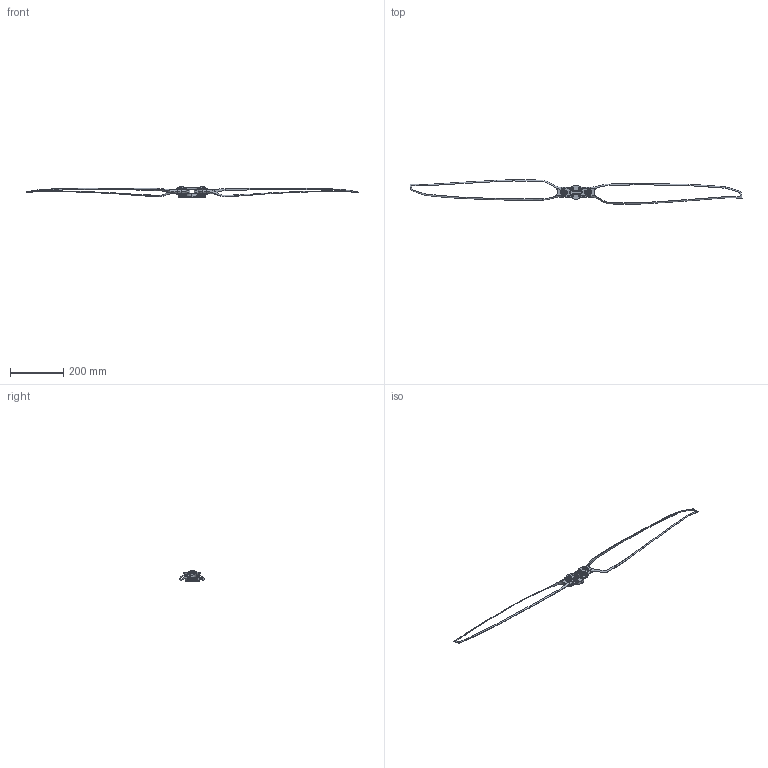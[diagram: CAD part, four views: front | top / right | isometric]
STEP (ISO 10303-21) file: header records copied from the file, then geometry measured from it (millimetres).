
FILE_DESCRIPTION (( 'STEP AP203' ), '1' );
FILE_NAME ('PFZ49蔑標嶺薯蚾饜.STEP', '2024-10-30T00:43:37', ( '' ), ( '' ), 'SwSTEP 2.0', 'SolidWorks 2022', '' );
FILE_SCHEMA (( 'CONFIG_CONTROL_DESIGN' ));
Length unit declared in the file: millimetre
Products named in the file (7): 30x10x1.5垫片.step; C0206000022-XA40.4寸桨夹氟胶套.step; PFZ49桨夹上板.stp; PFZ49桨夹下板.stp; Y0201000208-40寸桨夹-定位轴-X1-A.step; PFZ49开孔桨叶.stp; PFZ49桨夹拉力装配
Assembly tree (14 placements, depth 2):
  PFZ49桨夹拉力装配
    PFZ49桨夹下板.stp
    PFZ49桨夹上板.stp
    30x10x1.5垫片.step  x4
    C0206000022-XA40.4寸桨夹氟胶套.step  x4
    Y0201000208-40寸桨夹-定位轴-X1-A.step  x2
    PFZ49开孔桨叶.stp  x2
Bounding box: 1245.17 x 93.23 x 37.6 mm (x, y, z)
Volume: 132651.7 mm3; surface area: 81958.3 mm2
Topology: 14 solids, 14 shells, 1053 faces, 2780 edges, 1768 vertices
Faces by surface type: cylinder 383, plane 327, cone 161, bspline 134, torus 44, sphere 4
Entity records: 37518 total; most frequent: CARTESIAN_POINT 17917, ORIENTED_EDGE 4002, DIRECTION 3790, EDGE_CURVE 2001, AXIS2_PLACEMENT_3D 1424, VERTEX_POINT 1262, LINE 942, VECTOR 942
